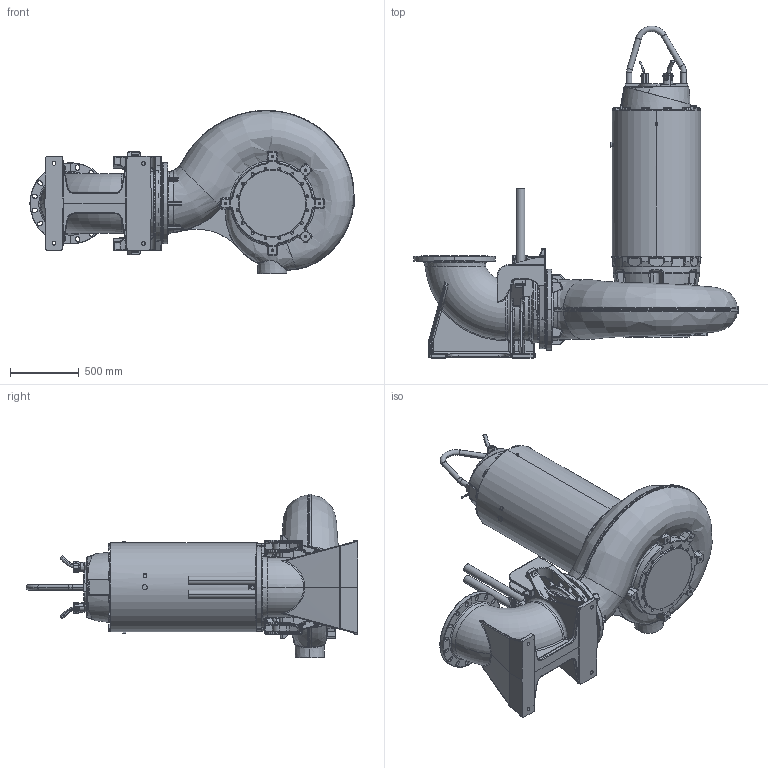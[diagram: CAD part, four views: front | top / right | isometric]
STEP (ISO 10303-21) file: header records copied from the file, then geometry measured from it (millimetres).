
FILE_DESCRIPTION (( 'STEP AP214' ), '1' );
FILE_NAME ('PE6_XFP400M-CH2_WET 2guide_A_NG2.STEP', '2017-03-23T08:19:40', ( '' ), ( '' ), 'SwSTEP 2.0', 'SolidWorks 2017', '' );
FILE_SCHEMA (( 'AUTOMOTIVE_DESIGN' ));
Length unit declared in the file: millimetre
Products named in the file (1): PE6_XFP400M-CH2_WET 2guide_A_NG2
Bounding box: 2353 x 2408.9 x 1184.25 mm (x, y, z)
Volume: 991240502.5 mm3; surface area: 12818889.8 mm2
Topology: 4 solids, 31 shells, 5042 faces, 12354 edges, 7205 vertices
Faces by surface type: cylinder 1327, bspline 1319, plane 1177, torus 531, cone 457, sphere 231
Entity records: 299596 total; most frequent: CARTESIAN_POINT 136808, ORIENTED_EDGE 24086, DIRECTION 20404, EDGE_CURVE 12043, AXIS2_PLACEMENT_3D 8206, VERTEX_POINT 7199, EDGE_LOOP 5346, UNCERTAINTY_MEASURE_WITH_UNIT 5048
